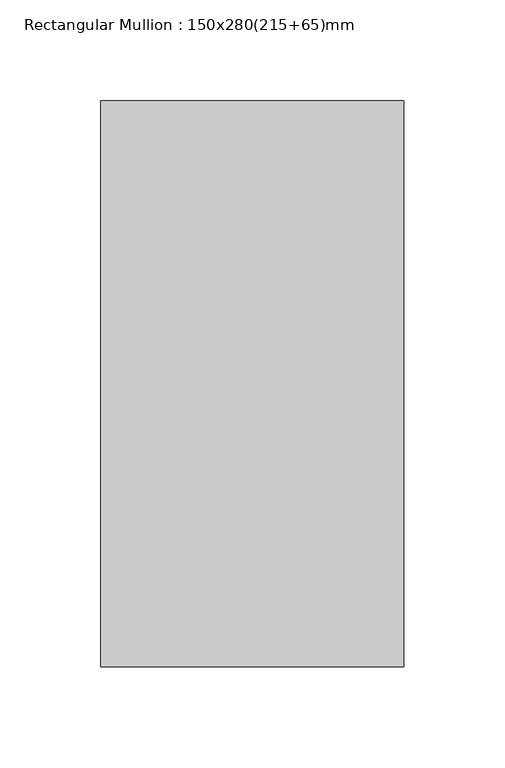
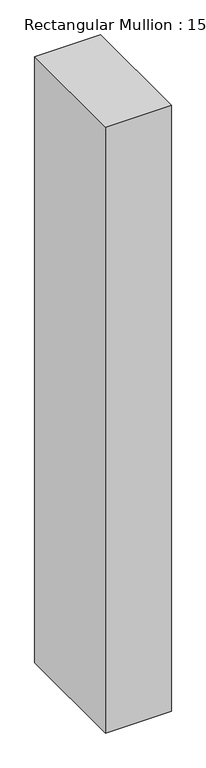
"""IFC4 building model written with IfcOpenShell, lengths in millimetres: member geometry, Rectangular Mullion : 150x280(215+65)mm."""

from ifc_helpers import new_model, si_unit, frame, origin, place, context, project, spatial, polyline, outline, extrude, source, transform, mapped, element, save


def rectangular_mullion_150x280_215_65_mm_2d2f6eb6(model_context):
    return source(origin(), model_context, "Body", "SweptSolid", [
        extrude(outline(polyline([(0.0, 65.0), (0.0, -215.0), (-150.0, -215.0), (-150.0, 65.0), (0.0, 65.0)])), frame((0.0, 0.0, -1461.3395588), z_axis=(0.0, 0.0, 1.0), x_axis=(1.0, 0.0, 0.0)), (0.0, 0.0, 1.0), 1461.3395588),
    ])


if __name__ == "__main__":
    model = new_model("IFC4")
    model_context = context("Model", 3, world=origin())
    ifc_project = project(units=[si_unit("LENGTHUNIT", "METRE", prefix="MILLI")], contexts=[model_context])
    site = spatial("IfcSite", under=ifc_project)
    building = spatial("IfcBuilding", under=site)
    placement = place(None, origin())
    rectangular_mullion_150x280_215_65_mm_shape = rectangular_mullion_150x280_215_65_mm_2d2f6eb6(model_context)
    element("IfcMember", 1, ObjectType="Rectangular Mullion : 150x280(215+65)mm", at=placement, inside=building, context=model_context, shape_type="MappedRepresentation", body=[
        mapped(rectangular_mullion_150x280_215_65_mm_shape, transform((0.0, 0.0, 0.0), x_axis=(1.0, 0.0, 0.0), y_axis=(0.0, 1.0, 0.0), z_axis=(0.0, 0.0, 1.0))),
    ])
    save(model, "model.ifc")
